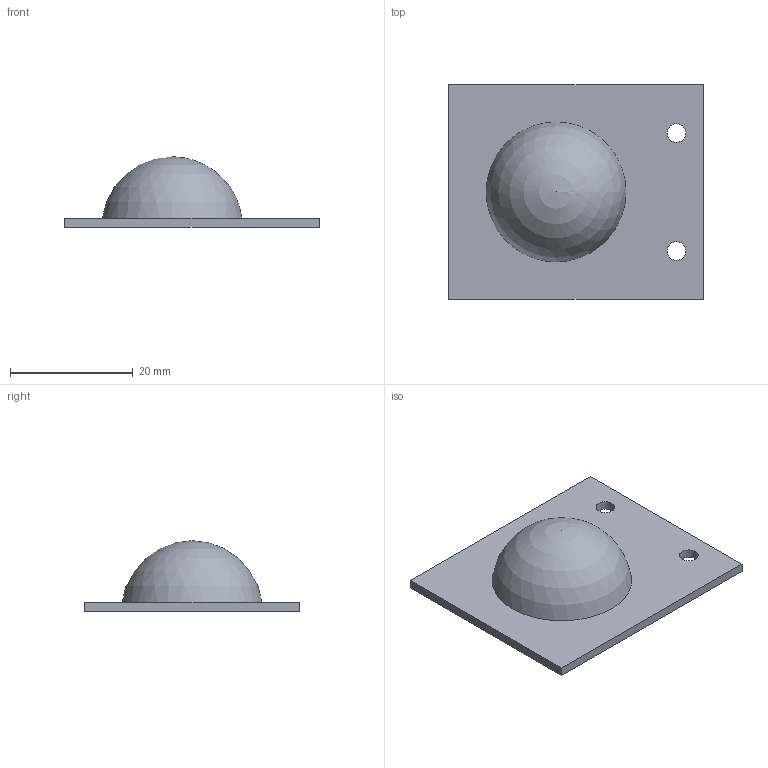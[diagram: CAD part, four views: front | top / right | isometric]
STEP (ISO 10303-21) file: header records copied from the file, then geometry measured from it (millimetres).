
FILE_DESCRIPTION(('HOOPS Exchange Step'),'2;1');
FILE_NAME('C:/Users/a0506362/Desktop/ansys/AOP/final_3d_step files/curved radome ABS.step','2025-02-18T14:55:00+05:30',('a0506362'),('Unknown organisation'),'HOOPS Exchange 2024.0','HOOPS Exchange','Unknown authorisation');
FILE_SCHEMA( ('AP242_MANAGED_MODEL_BASED_3D_ENGINEERING_MIM_LF {1 0 10303 442 1 1 4 }') );
Length unit declared in the file: millimetre
Products named in the file (1): Box1
Bounding box: 41.5 x 35 x 11.49 mm (x, y, z)
Volume: 2581.4 mm3; surface area: 3766.8 mm2
Topology: 1 solids, 1 shells, 11 faces, 27 edges, 18 vertices
Faces by surface type: plane 6, cylinder 3, sphere 2
Full cylindrical faces by diameter (mm): 3.03 x2, 20 x1
Entity records: 389 total; most frequent: DIRECTION 61, CARTESIAN_POINT 56, ORIENTED_EDGE 50, EDGE_CURVE 25, AXIS2_PLACEMENT_3D 23, VERTEX_POINT 18, EDGE_LOOP 17, FACE_BOUND 17
